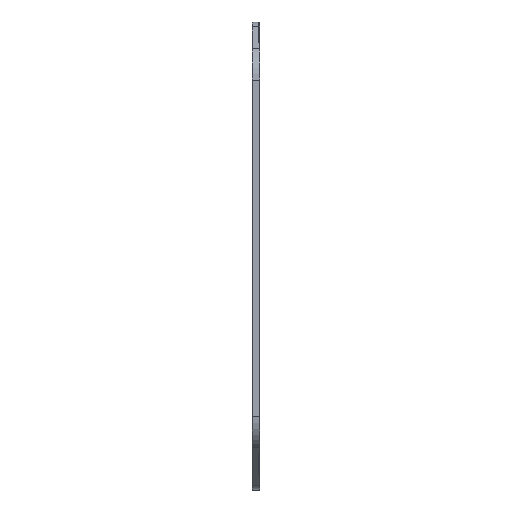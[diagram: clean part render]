
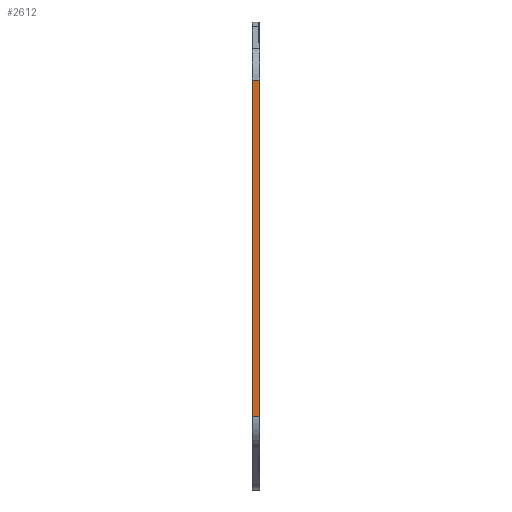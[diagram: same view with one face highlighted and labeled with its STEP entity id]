
A CAD part, front view. The second image highlights one B-rep face of the part: STEP entity #2612.
In plain terms, the highlighted planar face has unit normal (0, -1, 0) as drawn and (-1, 0, 0) by its records, which use the part's own axes.
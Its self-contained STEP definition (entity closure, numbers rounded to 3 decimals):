
#17 = CARTESIAN_POINT ( 'NONE',  ( -33., 28.868, 0.75 ) ) ;
#42 = PLANE ( 'NONE',  #2436 ) ;
#76 = CARTESIAN_POINT ( 'NONE',  ( -33., 28.868, 0.75 ) ) ;
#89 = CARTESIAN_POINT ( 'NONE',  ( -33., -32.332, -0.75 ) ) ;
#106 = VECTOR ( 'NONE', #3042, 1000. ) ;
#185 = ORIENTED_EDGE ( 'NONE', *, *, #2431, .T. ) ;
#239 = VECTOR ( 'NONE', #1654, 1000. ) ;
#266 = B_SPLINE_CURVE_WITH_KNOTS ( 'NONE', 3,
 ( #3408, #3386, #1434, #554 ),
 .UNSPECIFIED., .F., .F.,
 ( 4, 4 ),
 ( 0., 1. ),
 .UNSPECIFIED. ) ;
#463 = VERTEX_POINT ( 'NONE', #901 ) ;
#501 = LINE ( 'NONE', #3701, #106 ) ;
#554 = CARTESIAN_POINT ( 'NONE',  ( -33., 28.868, -0.75 ) ) ;
#631 = VERTEX_POINT ( 'NONE', #3179 ) ;
#692 = ORIENTED_EDGE ( 'NONE', *, *, #1906, .F. ) ;
#749 = CARTESIAN_POINT ( 'NONE',  ( -33., -28.868, 0.75 ) ) ;
#883 = LINE ( 'NONE', #3700, #2246 ) ;
#901 = CARTESIAN_POINT ( 'NONE',  ( -33., 28.868, -0.75 ) ) ;
#992 = ORIENTED_EDGE ( 'NONE', *, *, #3643, .T. ) ;
#993 = VERTEX_POINT ( 'NONE', #17 ) ;
#1070 = EDGE_CURVE ( 'NONE', #2725, #993, #3630, .T. ) ;
#1133 = EDGE_CURVE ( 'NONE', #993, #1447, #2268, .T. ) ;
#1352 = CARTESIAN_POINT ( 'NONE',  ( -33., -28.868, 0.75 ) ) ;
#1434 = CARTESIAN_POINT ( 'NONE',  ( -33., 9.623, -0.75 ) ) ;
#1447 = VERTEX_POINT ( 'NONE', #3267 ) ;
#1529 = EDGE_CURVE ( 'NONE', #463, #631, #883, .T. ) ;
#1644 = LINE ( 'NONE', #2503, #3153 ) ;
#1654 = DIRECTION ( 'NONE',  ( 0., 0., 1. ) ) ;
#1673 = ORIENTED_EDGE ( 'NONE', *, *, #1133, .T. ) ;
#1783 = CARTESIAN_POINT ( 'NONE',  ( -33., -32.332, 0.75 ) ) ;
#1881 = DIRECTION ( 'NONE',  ( -1., 0., 0. ) ) ;
#1899 = FACE_OUTER_BOUND ( 'NONE', #4048, .T. ) ;
#1906 = EDGE_CURVE ( 'NONE', #2832, #463, #266, .T. ) ;
#1954 = VERTEX_POINT ( 'NONE', #1783 ) ;
#1970 = CARTESIAN_POINT ( 'NONE',  ( -33., 36.373, 0.75 ) ) ;
#1976 = EDGE_CURVE ( 'NONE', #3091, #2832, #2210, .T. ) ;
#1993 = VECTOR ( 'NONE', #2944, 1000. ) ;
#2120 = ORIENTED_EDGE ( 'NONE', *, *, #2518, .T. ) ;
#2210 = LINE ( 'NONE', #3472, #3649 ) ;
#2246 = VECTOR ( 'NONE', #3040, 1000. ) ;
#2268 = LINE ( 'NONE', #1970, #1993 ) ;
#2340 = ORIENTED_EDGE ( 'NONE', *, *, #1070, .T. ) ;
#2431 = EDGE_CURVE ( 'NONE', #3091, #1954, #2936, .T. ) ;
#2436 = AXIS2_PLACEMENT_3D ( 'NONE', #3480, #1881, #4074 ) ;
#2503 = CARTESIAN_POINT ( 'NONE',  ( -33., -28.868, 0.75 ) ) ;
#2518 = EDGE_CURVE ( 'NONE', #1447, #631, #501, .T. ) ;
#2612 = ADVANCED_FACE ( 'NONE', ( #1899 ), #42, .T. ) ;
#2681 = ORIENTED_EDGE ( 'NONE', *, *, #1529, .F. ) ;
#2725 = VERTEX_POINT ( 'NONE', #749 ) ;
#2832 = VERTEX_POINT ( 'NONE', #2974 ) ;
#2866 = DIRECTION ( 'NONE',  ( 0., 1., 0. ) ) ;
#2906 = CARTESIAN_POINT ( 'NONE',  ( -33., -9.623, 0.75 ) ) ;
#2936 = LINE ( 'NONE', #89, #239 ) ;
#2944 = DIRECTION ( 'NONE',  ( 0., 1., 0. ) ) ;
#2968 = CARTESIAN_POINT ( 'NONE',  ( -33., 9.623, 0.75 ) ) ;
#2974 = CARTESIAN_POINT ( 'NONE',  ( -33., -28.868, -0.75 ) ) ;
#3040 = DIRECTION ( 'NONE',  ( 0., 1., 0. ) ) ;
#3042 = DIRECTION ( 'NONE',  ( 0., 0., -1. ) ) ;
#3091 = VERTEX_POINT ( 'NONE', #3985 ) ;
#3153 = VECTOR ( 'NONE', #3178, 1000. ) ;
#3178 = DIRECTION ( 'NONE',  ( 0., 1., 0. ) ) ;
#3179 = CARTESIAN_POINT ( 'NONE',  ( -33., 32.332, -0.75 ) ) ;
#3234 = ORIENTED_EDGE ( 'NONE', *, *, #1976, .F. ) ;
#3267 = CARTESIAN_POINT ( 'NONE',  ( -33., 32.332, 0.75 ) ) ;
#3386 = CARTESIAN_POINT ( 'NONE',  ( -33., -9.623, -0.75 ) ) ;
#3408 = CARTESIAN_POINT ( 'NONE',  ( -33., -28.868, -0.75 ) ) ;
#3472 = CARTESIAN_POINT ( 'NONE',  ( -33., -28.868, -0.75 ) ) ;
#3480 = CARTESIAN_POINT ( 'NONE',  ( -33., 0., -0.75 ) ) ;
#3630 = B_SPLINE_CURVE_WITH_KNOTS ( 'NONE', 3,
 ( #1352, #2906, #2968, #76 ),
 .UNSPECIFIED., .F., .F.,
 ( 4, 4 ),
 ( 0., 1. ),
 .UNSPECIFIED. ) ;
#3643 = EDGE_CURVE ( 'NONE', #1954, #2725, #1644, .T. ) ;
#3649 = VECTOR ( 'NONE', #2866, 1000. ) ;
#3700 = CARTESIAN_POINT ( 'NONE',  ( -33., 36.373, -0.75 ) ) ;
#3701 = CARTESIAN_POINT ( 'NONE',  ( -33., 32.332, -0.75 ) ) ;
#3985 = CARTESIAN_POINT ( 'NONE',  ( -33., -32.332, -0.75 ) ) ;
#4048 = EDGE_LOOP ( 'NONE', ( #1673, #2120, #2681, #692, #3234, #185, #992, #2340 ) ) ;
#4074 = DIRECTION ( 'NONE',  ( 0., -1., 0. ) ) ;
